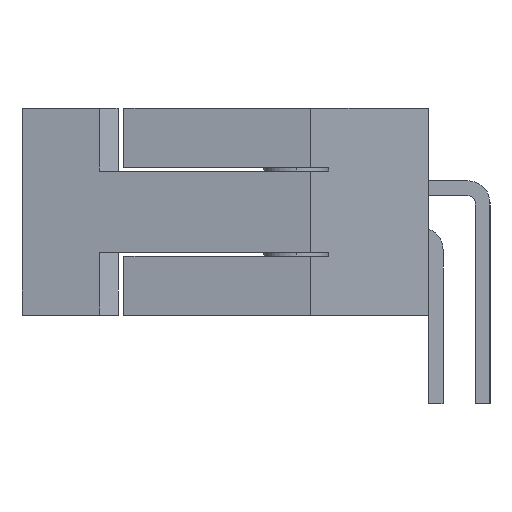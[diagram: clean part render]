
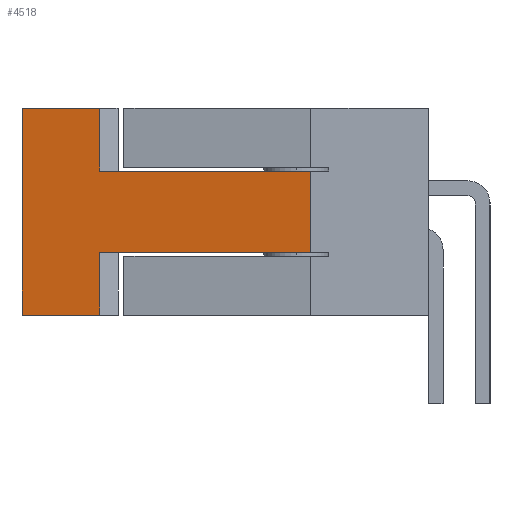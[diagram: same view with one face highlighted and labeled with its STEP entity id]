
A CAD part, left-side view. The second image highlights one B-rep face of the part: STEP entity #4518.
In plain terms, the highlighted planar face has unit normal (-0.988, 0.156, 0).
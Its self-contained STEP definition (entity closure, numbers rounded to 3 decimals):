
#178 = LINE ( 'NONE', #19354, #11185 ) ;
#258 = CARTESIAN_POINT ( 'NONE',  ( -13.153, -2.712, -1.1 ) ) ;
#965 = EDGE_CURVE ( 'NONE', #5499, #22610, #6852, .T. ) ;
#1603 = VERTEX_POINT ( 'NONE', #3153 ) ;
#1712 = EDGE_CURVE ( 'NONE', #5499, #2642, #19952, .T. ) ;
#1802 = EDGE_LOOP ( 'NONE', ( #8070, #7323, #23364, #17651, #13966, #16370, #17178, #9106 ) ) ;
#2054 = CARTESIAN_POINT ( 'NONE',  ( -13.153, -2.712, 2.8 ) ) ;
#2493 = AXIS2_PLACEMENT_3D ( 'NONE', #2723, #17537, #19772 ) ;
#2610 = VERTEX_POINT ( 'NONE', #22916 ) ;
#2642 = VERTEX_POINT ( 'NONE', #15079 ) ;
#2643 = LINE ( 'NONE', #10249, #9100 ) ;
#2723 = CARTESIAN_POINT ( 'NONE',  ( -13.153, -2.712, -2.8 ) ) ;
#3153 = CARTESIAN_POINT ( 'NONE',  ( -11.915, 5.108, -2.8 ) ) ;
#4028 = EDGE_CURVE ( 'NONE', #8084, #1603, #24344, .T. ) ;
#4518 = ADVANCED_FACE ( 'NONE', ( #7964 ), #6134, .F. ) ;
#5499 = VERTEX_POINT ( 'NONE', #258 ) ;
#6134 = PLANE ( 'NONE',  #2493 ) ;
#6139 = EDGE_CURVE ( 'NONE', #19570, #18194, #15127, .T. ) ;
#6852 = LINE ( 'NONE', #24235, #16224 ) ;
#7182 = CARTESIAN_POINT ( 'NONE',  ( -13.153, -2.712, -2.8 ) ) ;
#7323 = ORIENTED_EDGE ( 'NONE', *, *, #21169, .F. ) ;
#7964 = FACE_OUTER_BOUND ( 'NONE', #1802, .T. ) ;
#8000 = DIRECTION ( 'NONE',  ( 0., 0., -1. ) ) ;
#8048 = DIRECTION ( 'NONE',  ( 0., 0., 1. ) ) ;
#8070 = ORIENTED_EDGE ( 'NONE', *, *, #965, .T. ) ;
#8084 = VERTEX_POINT ( 'NONE', #21700 ) ;
#8155 = EDGE_CURVE ( 'NONE', #2642, #8084, #2643, .T. ) ;
#9066 = DIRECTION ( 'NONE',  ( 0., 0., 1. ) ) ;
#9100 = VECTOR ( 'NONE', #8000, 1000. ) ;
#9106 = ORIENTED_EDGE ( 'NONE', *, *, #1712, .F. ) ;
#9378 = CARTESIAN_POINT ( 'NONE',  ( -13.153, -2.712, 1.1 ) ) ;
#9676 = DIRECTION ( 'NONE',  ( 0.156, 0.988, 0. ) ) ;
#10249 = CARTESIAN_POINT ( 'NONE',  ( -12.247, 3.008, -1.1 ) ) ;
#11185 = VECTOR ( 'NONE', #8048, 1000. ) ;
#11952 = LINE ( 'NONE', #14063, #19686 ) ;
#13700 = VECTOR ( 'NONE', #24198, 1000. ) ;
#13966 = ORIENTED_EDGE ( 'NONE', *, *, #16329, .F. ) ;
#14063 = CARTESIAN_POINT ( 'NONE',  ( -11.915, 5.108, -2.8 ) ) ;
#14619 = CARTESIAN_POINT ( 'NONE',  ( -12.352, 2.348, 1.1 ) ) ;
#14753 = DIRECTION ( 'NONE',  ( 0.156, 0.988, 0. ) ) ;
#14816 = VECTOR ( 'NONE', #14753, 1000. ) ;
#15079 = CARTESIAN_POINT ( 'NONE',  ( -12.247, 3.008, -1.1 ) ) ;
#15127 = LINE ( 'NONE', #2054, #15966 ) ;
#15920 = DIRECTION ( 'NONE',  ( 0., 0., 1. ) ) ;
#15966 = VECTOR ( 'NONE', #9676, 1000. ) ;
#16224 = VECTOR ( 'NONE', #9066, 1000. ) ;
#16327 = CARTESIAN_POINT ( 'NONE',  ( -12.352, 2.348, -1.1 ) ) ;
#16329 = EDGE_CURVE ( 'NONE', #1603, #18194, #11952, .T. ) ;
#16370 = ORIENTED_EDGE ( 'NONE', *, *, #4028, .F. ) ;
#16558 = EDGE_CURVE ( 'NONE', #2610, #19570, #178, .T. ) ;
#16592 = LINE ( 'NONE', #14619, #13700 ) ;
#17178 = ORIENTED_EDGE ( 'NONE', *, *, #8155, .F. ) ;
#17537 = DIRECTION ( 'NONE',  ( 0.988, -0.156, 0. ) ) ;
#17651 = ORIENTED_EDGE ( 'NONE', *, *, #6139, .T. ) ;
#18100 = CARTESIAN_POINT ( 'NONE',  ( -11.915, 5.108, 2.8 ) ) ;
#18194 = VERTEX_POINT ( 'NONE', #18100 ) ;
#19076 = CARTESIAN_POINT ( 'NONE',  ( -12.247, 3.008, 2.8 ) ) ;
#19354 = CARTESIAN_POINT ( 'NONE',  ( -12.247, 3.008, 1.1 ) ) ;
#19570 = VERTEX_POINT ( 'NONE', #19076 ) ;
#19686 = VECTOR ( 'NONE', #15920, 1000. ) ;
#19772 = DIRECTION ( 'NONE',  ( 0., 0., -1. ) ) ;
#19952 = LINE ( 'NONE', #16327, #24265 ) ;
#21169 = EDGE_CURVE ( 'NONE', #2610, #22610, #16592, .T. ) ;
#21700 = CARTESIAN_POINT ( 'NONE',  ( -12.247, 3.008, -2.8 ) ) ;
#22073 = DIRECTION ( 'NONE',  ( 0.156, 0.988, 0. ) ) ;
#22610 = VERTEX_POINT ( 'NONE', #9378 ) ;
#22916 = CARTESIAN_POINT ( 'NONE',  ( -12.247, 3.008, 1.1 ) ) ;
#23364 = ORIENTED_EDGE ( 'NONE', *, *, #16558, .T. ) ;
#24198 = DIRECTION ( 'NONE',  ( -0.156, -0.988, 0. ) ) ;
#24235 = CARTESIAN_POINT ( 'NONE',  ( -13.153, -2.712, -2.8 ) ) ;
#24265 = VECTOR ( 'NONE', #22073, 1000. ) ;
#24344 = LINE ( 'NONE', #7182, #14816 ) ;
